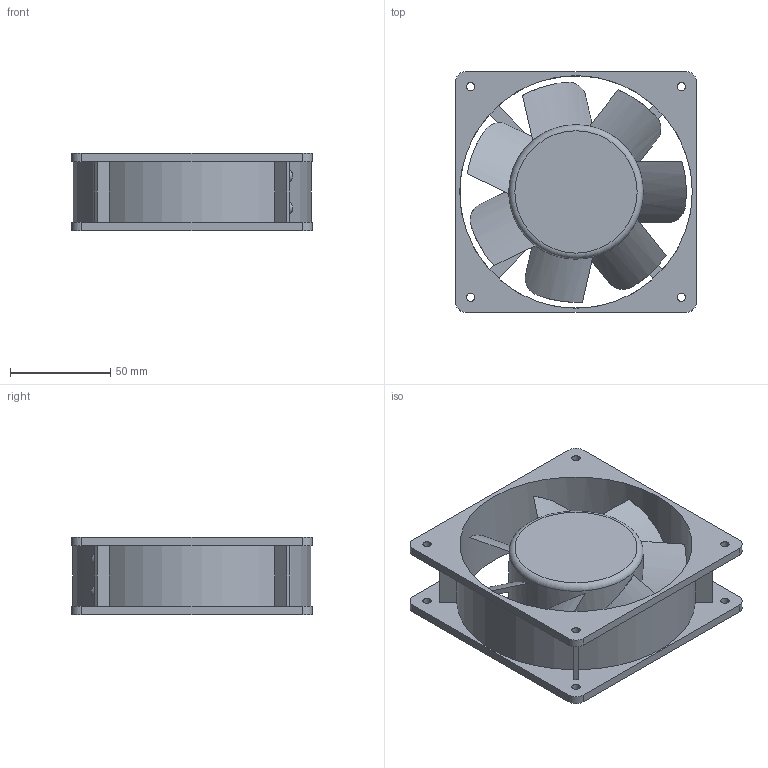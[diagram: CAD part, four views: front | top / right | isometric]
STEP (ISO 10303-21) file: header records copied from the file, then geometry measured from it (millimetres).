
FILE_DESCRIPTION(('STEP AP203'), '1');
FILE_NAME('Âåíòèëÿòîð _ XF1232ABH', '', ('UNSPECIFIED'), ('UNSPECIFIED'), 'ASCON STEP Converter 1.6', 'ASCON Math Kernel', '');
FILE_SCHEMA(('CONFIG_CONTROL_DESIGN'));
Length unit declared in the file: millimetre
Products named in the file (1): XF1232ABH
Bounding box: 120 x 120 x 38.8 mm (x, y, z)
Volume: 186390.2 mm3; surface area: 74349.4 mm2
Topology: 1 solids, 1 shells, 109 faces, 296 edges, 195 vertices
Faces by surface type: cylinder 58, plane 50, torus 1
Full cylindrical faces by diameter (mm): 4.2 x8, 6 x4, 67 x1, 116 x1
Entity records: 6721 total; most frequent: CARTESIAN_POINT 3114, ORIENTED_EDGE 560, DIRECTION 515, EDGE_CURVE 280, VERTEX_POINT 195, AXIS2_PLACEMENT_3D 181, EDGE_LOOP 157, LINE 153
